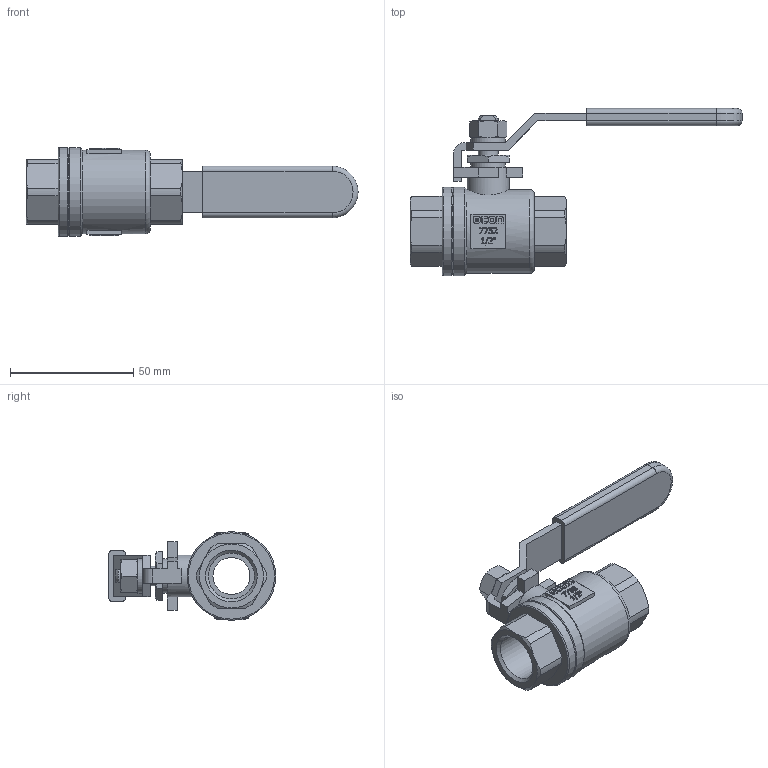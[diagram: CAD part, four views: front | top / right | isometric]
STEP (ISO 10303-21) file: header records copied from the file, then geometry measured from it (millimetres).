
FILE_DESCRIPTION(/* description */ ('Eriks item no: 12427451'),/* implementation_level */ '2;1');
FILE_NAME(/* name */ '7752-DN15-FB-1000PSI-BSPP.stp',/* time_stamp */ '2024-02-16T16:32:16+01:00',/* author */ ('roger.thijssen'),/* organization */ (''),/* preprocessor_version */ 'ST-DEVELOPER v19.2',/* originating_system */ 'Autodesk Inventor 2024',/* authorisation */ '');
FILE_SCHEMA (('AUTOMOTIVE_DESIGN { 1 0 10303 214 3 1 1 }'));
Length unit declared in the file: millimetre
Products named in the file (1): Ball valve, 7752-DN15-FB-1000PSI-BSPP
Bounding box: 134.75 x 68 x 36 mm (x, y, z)
Volume: 53153.7 mm3; surface area: 19009.5 mm2
Topology: 1 solids, 1 shells, 1135 faces, 3102 edges, 2052 vertices
Faces by surface type: plane 906, bspline 111, cylinder 77, cone 37, torus 4
Full cylindrical faces by diameter (mm): 8 x2, 14 x2, 15 x1, 17 x1, 18.631 x2, 34 x1, 36 x2
Entity records: 37406 total; most frequent: CARTESIAN_POINT 8174, ORIENTED_EDGE 6204, DIRECTION 5070, EDGE_CURVE 3102, LINE 2608, VECTOR 2608, VERTEX_POINT 2052, AXIS2_PLACEMENT_3D 1231
